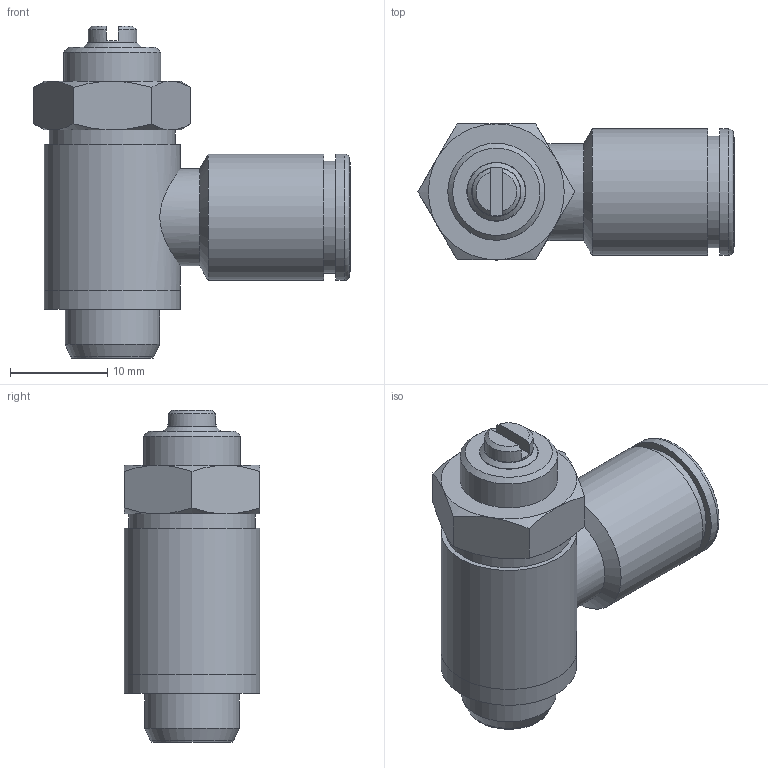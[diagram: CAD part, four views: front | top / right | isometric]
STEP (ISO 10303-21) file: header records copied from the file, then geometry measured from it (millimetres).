
FILE_DESCRIPTION(('Bauteilbeschreibung','HiCAD-Model','HiCAD-STEP-TRANSLATION','Bauteilbeschreibung'),'2;1');
FILE_NAME('B:/ABGLEICH/ZEICHNUNGEN/STEP FÜR INTERNET/STEP/IPSO 029/304807_IPSO_029_8_1-8.STP','2012-05-07T08:14:28+00:00',('Konstrukteur'),('Konstrukteur Firma GmbH'),' HiCAD neXt 2008, Step 3.1.1401.2J ','HiCAD neXt 2008','confidential');
FILE_SCHEMA(('AUTOMOTIVE_DESIGN { 1 2 10303 214 0 1 1 1 }'));
Length unit declared in the file: millimetre
Products named in the file (17): A04807_IPSO_029_8_1_8; BAUGRUPPE 304001_1; A04001_2; A0400102; DIN 13_M6X0_75; A04001_3; A0400103; DIN 13_M8X0_75; A04001_1; A0400101; G 1_8; DIN 13_M7X0_75; DIN0130M6X0075; A00032; A00042_DTG__1_8_UNV ; DR8_1_NEU; R201207_N
Assembly tree (16 placements, depth 4):
  A04807_IPSO_029_8_1_8
    BAUGRUPPE 304001_1
      A04001_2
      A0400102
        DIN 13_M6X0_75
      A04001_3
      A0400103
        DIN 13_M8X0_75
      A04001_1
      A0400101
        G 1_8
        DIN 13_M7X0_75
        DIN0130M6X0075
    A00032
    A00042_DTG__1_8_UNV 
    DR8_1_NEU
    R201207_N
Bounding box: 32.58 x 14 x 34.2 mm (x, y, z)
Volume: 4602.1 mm3; surface area: 7648.9 mm2
Topology: 12 solids, 12 shells, 162 faces, 344 edges, 212 vertices
Faces by surface type: cylinder 59, plane 51, cone 50, torus 2
Full cylindrical faces by diameter (mm): 2.2 x4, 3 x1, 4 x1, 5 x2, 5.08 x3, 5.6 x1, 5.8 x1, 6 x4, 6.08 x1, 6.4 x1, 6.5 x1, 6.9 x1, 7 x3, 7.08 x2, 7.5 x1, 7.6 x1, 8 x1, 8.1 x1, 8.2 x1, 8.566 x2, 8.8 x1, 9.65 x2, 9.728 x1, 9.9 x2, 10 x3, 10.1 x1, 10.2 x1, 10.6 x1, 11 x1, 11.5 x1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
Entity records: 11590 total; most frequent: CARTESIAN_POINT 7120, DIRECTION 722, ORIENTED_EDGE 436, AXIS2_PLACEMENT_3D 348, EDGE_LOOP 296, COLOUR_RGB 220, PRESENTATION_STYLE_ASSIGNMENT 220, EDGE_CURVE 218
